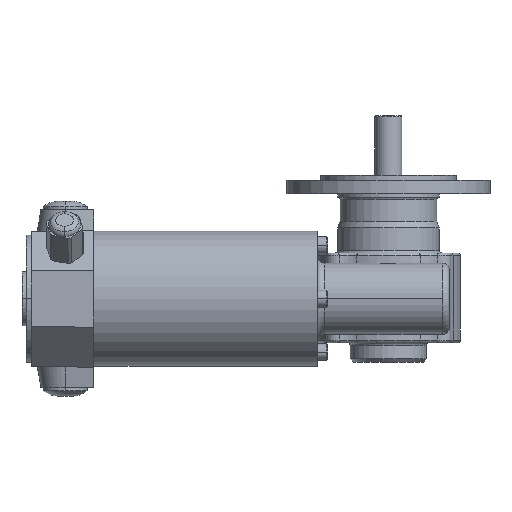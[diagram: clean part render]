
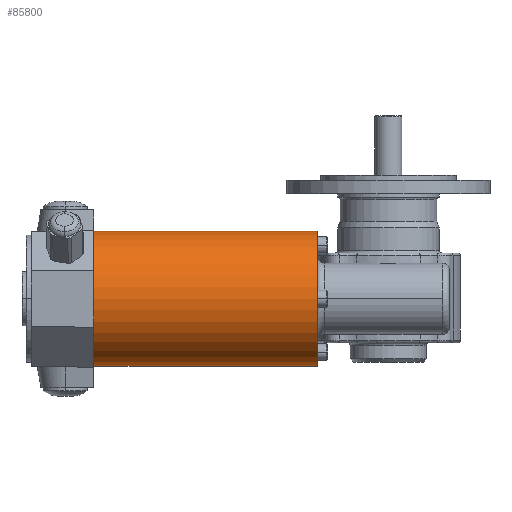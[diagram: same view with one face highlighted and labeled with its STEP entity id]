
A CAD part, front view. The second image highlights one B-rep face of the part: STEP entity #85800.
In plain terms, the highlighted cylindrical face has radius 40 mm (diameter 80 mm), a partial arc.
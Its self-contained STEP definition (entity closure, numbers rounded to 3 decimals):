
#26580=CARTESIAN_POINT('',(-48.603,455.,
-104.15));
#26590=DIRECTION('',(-0.026,0.,
1.));
#26600=DIRECTION('',(1.,0.,
0.026));
#26610=AXIS2_PLACEMENT_3D('',#26580,#26590,#26600);
#26620=CIRCLE('',#26610,40.);
#26630=CARTESIAN_POINT('',(-8.617,455.,
-103.102));
#26640=VERTEX_POINT('',#26630);
#26650=CARTESIAN_POINT('',(-48.603,495.,
-104.15));
#26660=VERTEX_POINT('',#26650);
#26670=EDGE_CURVE('',#26640,#26660,#26620,.T.);
#26690=CARTESIAN_POINT('',(-48.603,415.,
-104.15));
#26700=VERTEX_POINT('',#26690);
#26730=EDGE_CURVE('',#26700,#26640,#26620,.T.);
#34890=CARTESIAN_POINT('',(-52.058,455.,
27.805));
#34900=DIRECTION('',(0.026,0.,
-1.));
#34910=DIRECTION('',(0.,1.,0.));
#34920=AXIS2_PLACEMENT_3D('',#34890,#34900,#34910);
#34930=CYLINDRICAL_SURFACE('',#34920,40.);
#38720=CARTESIAN_POINT('',(-52.058,455.,
27.805));
#38730=DIRECTION('',(-0.026,0.,
1.));
#38740=DIRECTION('',(0.,1.,0.));
#38750=AXIS2_PLACEMENT_3D('',#38720,#38730,#38740);
#38760=CIRCLE('',#38750,40.);
#38770=CARTESIAN_POINT('',(-52.058,415.,
27.805));
#38780=VERTEX_POINT('',#38770);
#38810=CARTESIAN_POINT('',(-52.058,415.,
27.805));
#38820=DIRECTION('',(0.026,0.,
-1.));
#38830=VECTOR('',#38820,1.);
#38840=LINE('',#38810,#38830);
#38850=EDGE_CURVE('',#38780,#26700,#38840,.T.);
#38880=CARTESIAN_POINT('',(-52.058,495.,
27.805));
#38890=DIRECTION('',(0.026,0.,
-1.));
#38900=VECTOR('',#38890,1.);
#38910=LINE('',#38880,#38900);
#38920=CARTESIAN_POINT('',(-52.058,495.,
27.805));
#38930=VERTEX_POINT('',#38920);
#38940=EDGE_CURVE('',#38930,#26660,#38910,.T.);
#73800=EDGE_CURVE('',#38780,#38930,#38760,.T.);
#85730=ORIENTED_EDGE('',*,*,#38850,.T.);
#85740=ORIENTED_EDGE('',*,*,#73800,.F.);
#85750=ORIENTED_EDGE('',*,*,#38940,.F.);
#85760=ORIENTED_EDGE('',*,*,#26670,.T.);
#85770=ORIENTED_EDGE('',*,*,#26730,.T.);
#85780=EDGE_LOOP('',(#85770,#85760,#85750,#85740,#85730));
#85790=FACE_OUTER_BOUND('',#85780,.T.);
#85800=ADVANCED_FACE('',(#85790),#34930,.T.);
